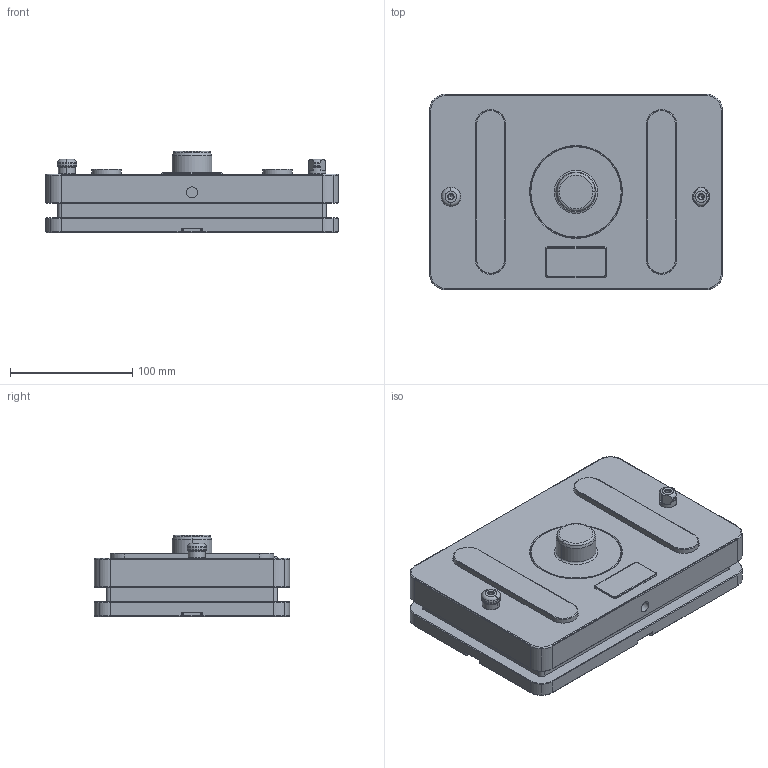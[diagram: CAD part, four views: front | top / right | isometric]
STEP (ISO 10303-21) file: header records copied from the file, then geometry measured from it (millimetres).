
FILE_DESCRIPTION (( 'STEP AP214' ), '1' );
FILE_NAME ('Base-QPS-100.step', '2025-05-03T14:35:52', ( 'tinckavdane@live.com' ), ( '' ), 'SwSTEP 2.0', 'SolidWorks 2025', '' );
FILE_SCHEMA (( 'AUTOMOTIVE_DESIGN' ));
Length unit declared in the file: millimetre
Products named in the file (5): D-RAZTEH-Logo.step; Base-QPS-100; eBom-FreeParts.step; Base-QPS-100_1.step; Base-QPS-100.step
Assembly tree (4 placements, depth 4):
  Base-QPS-100
    Base-QPS-100.step
      Base-QPS-100_1.step
        D-RAZTEH-Logo.step
      eBom-FreeParts.step
Bounding box: 240 x 160 x 66.5 mm (x, y, z)
Volume: 1754114 mm3; surface area: 142708.5 mm2
Topology: 2 solids, 5 shells, 526 faces, 1252 edges, 746 vertices
Faces by surface type: cylinder 166, plane 158, cone 156, torus 42, bspline 4
Entity records: 15402 total; most frequent: CARTESIAN_POINT 2887, DIRECTION 2824, ORIENTED_EDGE 2480, EDGE_CURVE 1240, AXIS2_PLACEMENT_3D 1097, VERTEX_POINT 746, VECTOR 630, LINE 630
